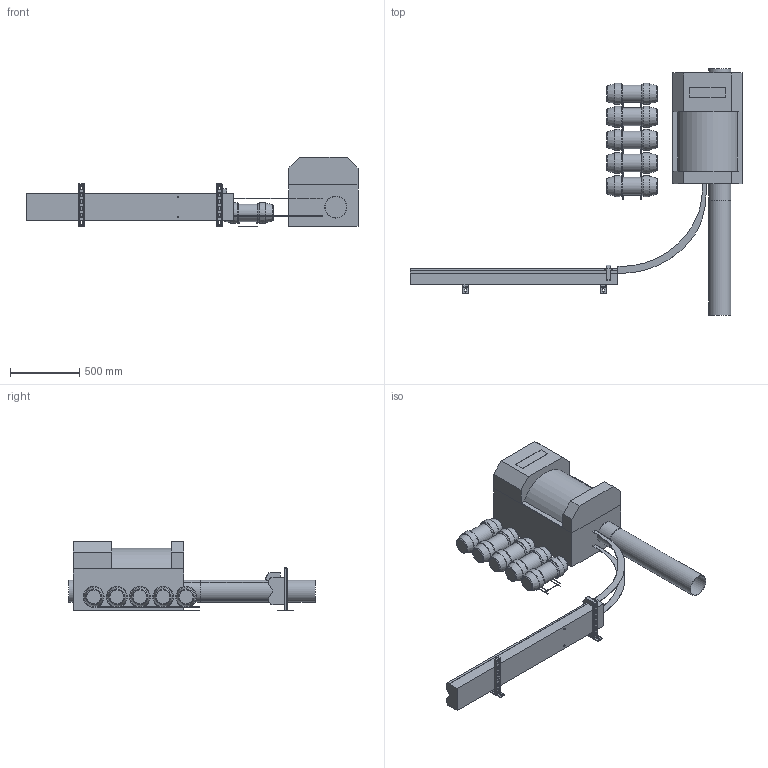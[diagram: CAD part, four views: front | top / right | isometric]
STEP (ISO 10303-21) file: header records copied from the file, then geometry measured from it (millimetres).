
FILE_DESCRIPTION(/* description */ (''),/* implementation_level */ '2;1');
FILE_NAME(/* name */ 'Q:\I_Simples\Library\Inventor\Stations\461T_A300_DF\Step\S461_T_F_CB.stp',/* time_stamp */ '2023-07-03T10:11:46+02:00',/* author */ ('Ru'),/* organization */ (''),/* preprocessor_version */ 'ST-DEVELOPER v18.1',/* originating_system */ 'Autodesk Inventor 2022',/* authorisation */ '');
FILE_SCHEMA (('AUTOMOTIVE_DESIGN { 1 0 10303 214 3 1 1 }'));
Length unit declared in the file: millimetre
Products named in the file (15): 12615T00_461 Apl_A100_AutocadDummies; 10461T_BG_A3; 10461T_Body_ A3; 10461T_Door_ A3; 1.0461.T.45; ro160-830; Assembly2; 19001T00_Behälteranlage_Dummy_A200; 19350T0L-dummy; Band1500_BG; Band1500; 10026T10_Abrollbuegel_Kurz 2; 10750V15_IR_Halter A300_Dummy; 6603862 BIS RapidStrut Cantilever Arm; 7.1166.5.46
Assembly tree (21 placements, depth 3):
  12615T00_461 Apl_A100_AutocadDummies
    10461T_BG_A3
      10461T_Body_ A3
      10461T_Door_ A3
      1.0461.T.45
    ro160-830
    Assembly2
      19001T00_Behälteranlage_Dummy_A200
      19350T0L-dummy  x5
    Band1500_BG
      Band1500
      10026T10_Abrollbuegel_Kurz 2  x2
      10750V15_IR_Halter A300_Dummy
    6603862 BIS RapidStrut Cantilever Arm  x2
    7.1166.5.46  x2
Bounding box: 2400.5 x 1780 x 502 mm (x, y, z)
Volume: 233320938.4 mm3; surface area: 6123514.4 mm2
Topology: 22 solids, 22 shells, 1310 faces, 3329 edges, 2186 vertices
Faces by surface type: plane 726, bspline 410, cylinder 148, torus 10, cone 8, sphere 8
Full cylindrical faces by diameter (mm): 4 x2, 10 x2, 10.5 x16, 18.5 x2, 126 x5, 153.6 x3, 160 x3
Entity records: 17744 total; most frequent: CARTESIAN_POINT 4201, ORIENTED_EDGE 2726, DIRECTION 2465, EDGE_CURVE 1363, LINE 961, VECTOR 961, VERTEX_POINT 882, AXIS2_PLACEMENT_3D 752
